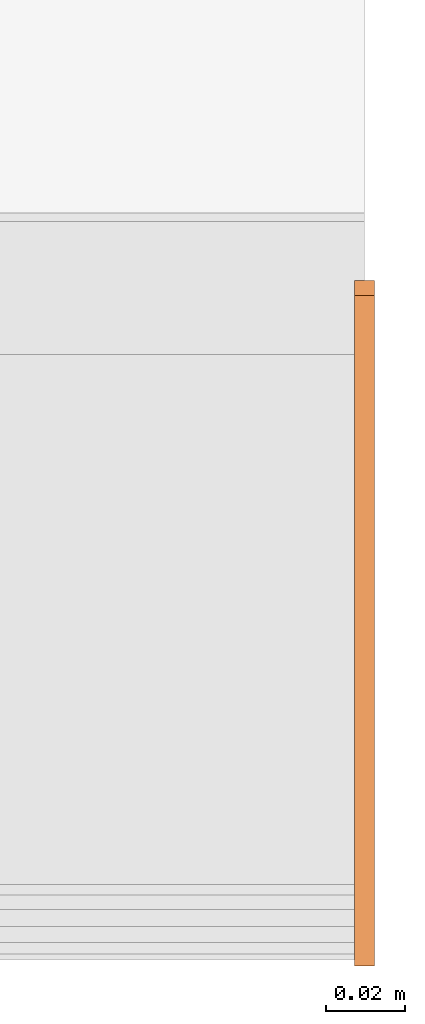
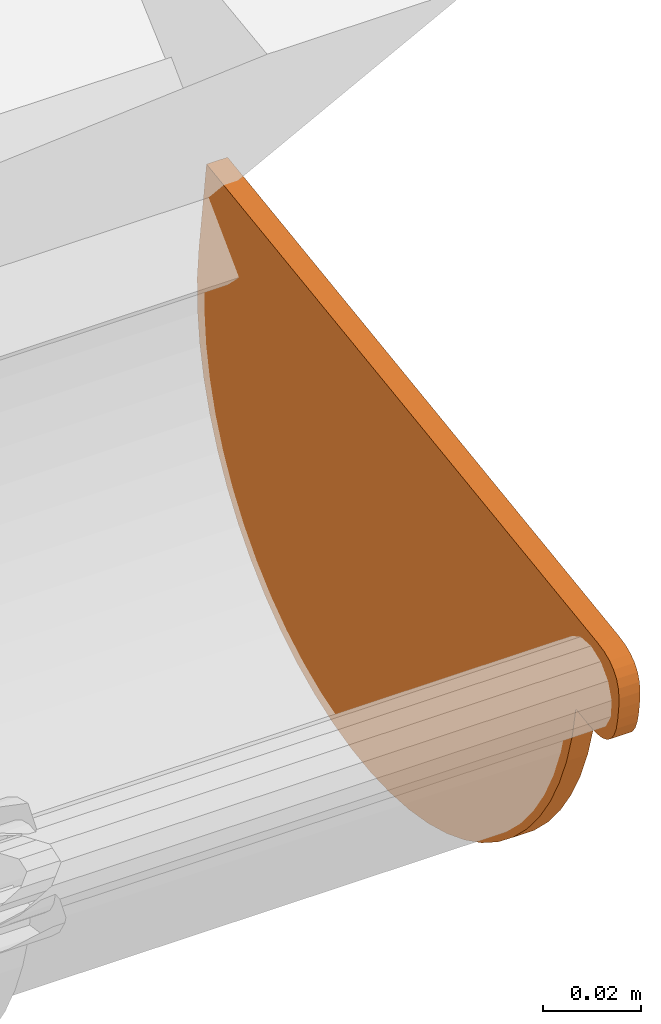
# One storey, part 40 of 43: 1 proxy.
"""IFC2X3 building model written with IfcOpenShell, lengths in millimetres."""

from ifc_helpers import new_model, si_unit, frame, origin_with_axes, place, context, project, spatial, faceted_brep, element, save


model = new_model("IFC2X3")

# Units and contexts
model_context = context("Model", 3, world=origin_with_axes())
ifc_project = project(units=[si_unit("LENGTHUNIT", "METRE", prefix="MILLI")], contexts=[model_context])

# Site, building, storey
site_placement = place(None, origin_with_axes())
site = spatial("IfcSite", under=ifc_project, at=site_placement, Name="Site", CompositionType="ELEMENT")
building_placement = place(site_placement, origin_with_axes())
building = spatial("IfcBuilding", under=site, at=building_placement, Name="?", CompositionType="ELEMENT")
storey_placement = place(building_placement, frame((0.0, 0.0, 5938.0), z_axis=(0.0, 0.0, 1.0), x_axis=(1.0, 0.0, 0.0)))
storey = spatial("IfcBuildingStorey", under=building, at=storey_placement, Name="Dachgeschoß", CompositionType="ELEMENT", Elevation=5938.0)

# Proxy
proxy_placement = place(None, origin_with_axes())
element("IfcBuildingElementProxy", 1, at=proxy_placement, inside=storey, Name="Dach01_RoofGutter#013", ObjectType="gutter", CompositionType="ELEMENT", context=model_context, shape_type="Brep", body=[
    faceted_brep([(18602.5, -8096.2509765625, 6644.93896484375), (18597.5, -8096.2509765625, 6644.93896484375), (18597.5, -8094.75647654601, 6637.18036494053), (18602.5, -8094.75647654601, 6637.18036494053), (18602.5, -8094.75634765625, 6637.18017578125), (18597.5, -8094.75634765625, 6637.18017578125), (18597.5, -8092.48454766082, 6629.61247599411), (18602.5, -8092.48454766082, 6629.61247599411), (18602.5, -8092.484375, 6629.61279296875), (18597.5, -8092.484375, 6629.61279296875), (18597.5, -8089.45867502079, 6622.31389280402), (18602.5, -8089.45867502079, 6622.31389280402), (18602.5, -8089.458984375, 6622.31396484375), (18597.5, -8089.458984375, 6622.31396484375), (18597.5, -8085.71028437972, 6615.35856489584), (18602.5, -8085.71028437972, 6615.35856489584), (18602.5, -8085.7099609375, 6615.3583984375), (18597.5, -8085.7099609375, 6615.3583984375), (18597.5, -8081.27686074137, 6608.81789834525), (18602.5, -8081.27686074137, 6608.81789834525), (18602.5, -8081.27734375, 6608.81787109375), (18597.5, -8081.27734375, 6608.81787109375), (18597.5, -8076.20534357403, 6602.75937116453), (18602.5, -8076.20534357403, 6602.75937116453), (18602.5, -8076.205078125, 6602.75927734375), (18597.5, -8076.205078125, 6602.75927734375), (18597.5, -8070.54617810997, 6597.24507732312), (18602.5, -8070.54617810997, 6597.24507732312), (18602.5, -8070.54638671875, 6597.2451171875), (18597.5, -8070.54638671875, 6597.2451171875), (18597.5, -8064.35858673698, 6592.33171697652), (18602.5, -8064.35858673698, 6592.33171697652), (18602.5, -8064.3583984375, 6592.33203125), (18597.5, -8064.3583984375, 6592.33203125), (18597.5, -8057.70539846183, 6588.06973133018), (18602.5, -8057.70539846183, 6588.06973133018), (18602.5, -8057.70556640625, 6588.0693359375), (18597.5, -8057.70556640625, 6588.0693359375), (18597.5, -8050.65536663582, 6584.50213591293), (18602.5, -8050.65536663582, 6584.50213591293), (18602.5, -8050.6552734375, 6584.50244140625), (18597.5, -8050.6552734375, 6584.50244140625), (18597.5, -8043.28037339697, 6581.66674152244), (18602.5, -8043.28037339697, 6581.66674152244), (18602.5, -8043.2802734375, 6581.66650390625), (18597.5, -8043.2802734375, 6581.66650390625), (18597.5, -8035.65637361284, 6579.59140394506), (18602.5, -8035.65637361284, 6579.59140394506), (18602.5, -8035.65625, 6579.59130859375), (18597.5, -8035.65625, 6579.59130859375), (18597.5, -8027.86154998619, 6578.29820858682), (18602.5, -8027.86154998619, 6578.29820858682), (18602.5, -8027.86181640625, 6578.29833984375), (18597.5, -8027.86181640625, 6578.29833984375), (18597.5, -8019.97621626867, 6577.80043982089), (18602.5, -8019.97621626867, 6577.80043982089), (18602.5, -8019.97607421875, 6577.80029296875), (18597.5, -8019.97607421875, 6577.80029296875), (18597.5, -8012.08057429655, 6578.10269295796), (18602.5, -8012.08057429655, 6578.10269295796), (18602.5, -8012.08056640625, 6578.10302734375), (18597.5, -8012.08056640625, 6578.10302734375), (18597.5, -8004.2561663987, 6579.20272731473), (18602.5, -8004.2561663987, 6579.20272731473), (18602.5, -8004.25634765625, 6579.20263671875), (18597.5, -8004.25634765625, 6579.20263671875), (18597.5, -7996.58334766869, 6581.08813669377), (18602.5, -7996.58334766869, 6581.08813669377), (18602.5, -7996.5830078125, 6581.087890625), (18597.5, -7996.5830078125, 6581.087890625), (18597.5, -7989.14020801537, 6583.74009059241), (18602.5, -7989.14020801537, 6583.74009059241), (18602.5, -7989.140625, 6583.740234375), (18597.5, -7989.140625, 6583.740234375), (18597.5, -7982.00422499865, 6587.13183440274), (18602.5, -7982.00422499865, 6587.13183440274), (18602.5, -7982.00390625, 6587.1318359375), (18597.5, -7982.00390625, 6587.1318359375), (18597.5, -7975.24730613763, 6591.22793584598), (18602.5, -7975.24730613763, 6591.22793584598), (18602.5, -7975.24755859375, 6591.22802734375), (18597.5, -7975.24755859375, 6591.22802734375), (18597.5, -7968.94005870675, 6595.98662726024), (18602.5, -7968.94005870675, 6595.98662726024), (18602.5, -7968.93994140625, 6595.98681640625), (18597.5, -7968.93994140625, 6595.98681640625), (18597.5, -7963.14614135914, 6601.3592166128), (18602.5, -7963.14614135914, 6601.3592166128), (18602.5, -7963.14599609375, 6601.35888671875), (18597.5, -7963.14599609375, 6601.35888671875), (18597.5, -7957.92549597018, 6607.28988671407), (18602.5, -7957.92549597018, 6607.28988671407), (18602.5, -7957.92578125, 6607.2900390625), (18597.5, -7957.92578125, 6607.2900390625), (18597.5, -7953.33198134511, 6613.71863918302), (18602.5, -7953.33198134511, 6613.71863918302), (18602.5, -7953.33203125, 6613.71875), (18597.5, -7953.33203125, 6613.71875), (18597.5, -7949.41233128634, 6620.5792497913), (18602.5, -7949.41233128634, 6620.5792497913), (18602.5, -7949.412109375, 6620.5791015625), (18597.5, -7949.412109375, 6620.5791015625), (18597.5, -7946.20650946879, 6627.8008014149), (18602.5, -7946.20650946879, 6627.8008014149), (18602.5, -7946.20654296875, 6627.80078125), (18597.5, -7946.20654296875, 6627.80078125), (18597.5, -7943.74794288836, 6635.30988116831), (18602.5, -7943.74794288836, 6635.30988116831), (18602.5, -7943.748046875, 6635.31005859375), (18597.5, -7943.748046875, 6635.31005859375), (18597.5, -7942.06184691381, 6643.02925874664), (18602.5, -7942.06184691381, 6643.02925874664), (18602.5, -7942.0615234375, 6643.029296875), (18597.5, -7942.0615234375, 6643.029296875), (18597.5, -7941.16482343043, 6650.87959710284), (18602.5, -7941.16482343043, 6650.87959710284), (18602.5, -7941.1650390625, 6650.87939453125), (18597.5, -7941.1650390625, 6650.87939453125), (18597.5, -7941.06723906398, 6658.77999466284), (18602.5, -7941.06723906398, 6658.77999466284), (18602.5, -7941.0673828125, 6658.77978515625), (18597.5, -7941.0673828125, 6658.77978515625), (18597.5, -7941.76928279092, 6666.64988526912), (18602.5, -7941.76928279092, 6666.64988526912), (18602.5, -7941.76904296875, 6666.64990234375), (18597.5, -7941.76904296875, 6666.64990234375), (18597.5, -8019.00994139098, 6655.79430188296), (18602.5, -8019.00994139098, 6655.79430188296), (18602.5, -8019.009765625, 6655.79443359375), (18597.5, -8019.009765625, 6655.79443359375), (18597.5, -8096.25066421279, 6644.93893386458), (18602.5, -8096.25066421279, 6644.93893386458), (18597.5, -7942.0615234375, 6643.029296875), (18597.5, -8019.0098234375, 6655.794696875), (18597.5, -7941.7689234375, 6666.650296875), (18597.5, -7941.0670234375, 6658.780196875), (18597.5, -7942.0615234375, 6643.029296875), (18597.5, -7941.0670234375, 6658.780196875), (18597.5, -7941.1648234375, 6650.879596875), (18597.5, -7953.33203125, 6613.71875), (18597.5, -7942.06193125, 6643.02925), (18597.5, -7943.74813125, 6635.31005), (18597.5, -7946.20673125, 6627.80095), (18597.5, -7953.33203125, 6613.71875), (18597.5, -7946.20673125, 6627.80095), (18597.5, -7949.41233125, 6620.57925), (18597.5, -8004.25634765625, 6579.20263671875), (18597.5, -8019.01014765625, 6655.79453671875), (18597.5, -7942.06184765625, 6643.02913671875), (18597.5, -7953.33194765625, 6613.71863671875), (18597.5, -7975.24755859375, 6591.22802734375), (18597.5, -7953.33195859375, 6613.71862734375), (18597.5, -7957.92575859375, 6607.29002734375), (18597.5, -7963.14625859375, 6601.35902734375), (18597.5, -7975.24755859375, 6591.22802734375), (18597.5, -7963.14625859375, 6601.35902734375), (18597.5, -7968.94005859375, 6595.98662734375), (18597.5, -8004.25634765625, 6579.20263671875), (18597.5, -7975.24754765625, 6591.22803671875), (18597.5, -7982.00414765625, 6587.13193671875), (18597.5, -7989.14054765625, 6583.74033671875), (18597.5, -8004.25634765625, 6579.20263671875), (18597.5, -7989.14054765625, 6583.74033671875), (18597.5, -7996.58334765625, 6581.08813671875), (18597.5, -8004.25634765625, 6579.20263671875), (18597.5, -7953.33194765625, 6613.71863671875), (18597.5, -7975.24754765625, 6591.22803671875), (18597.5, -8035.65625, 6579.59130859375), (18597.5, -8004.25605, 6579.20240859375), (18597.5, -8012.08045, 6578.10270859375), (18597.5, -8019.97595, 6577.80030859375), (18597.5, -8035.65625, 6579.59130859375), (18597.5, -8019.97595, 6577.80030859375), (18597.5, -8027.86155, 6578.29820859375), (18597.5, -8064.3583984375, 6592.33203125), (18597.5, -8035.6563984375, 6579.59173125), (18597.5, -8043.2802984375, 6581.66683125), (18597.5, -8050.6551984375, 6584.50253125), (18597.5, -8064.3583984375, 6592.33203125), (18597.5, -8050.6551984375, 6584.50253125), (18597.5, -8057.7053984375, 6588.06973125), (18597.5, -8019.009765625, 6655.79443359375), (18597.5, -8004.255965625, 6579.20253359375), (18597.5, -8035.656165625, 6579.59143359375), (18597.5, -8064.358165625, 6592.33173359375), (18597.5, -8085.7099609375, 6615.3583984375), (18597.5, -8064.3581609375, 6592.3317984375), (18597.5, -8070.5459609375, 6597.2451984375), (18597.5, -8076.2048609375, 6602.7593984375), (18597.5, -8085.7099609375, 6615.3583984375), (18597.5, -8076.2048609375, 6602.7593984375), (18597.5, -8081.2768609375, 6608.8178984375), (18597.5, -8092.484375, 6629.61279296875), (18597.5, -8019.009775, 6655.79459296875), (18597.5, -8064.358175, 6592.33189296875), (18597.5, -8085.709975, 6615.35849296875), (18597.5, -8092.484375, 6629.61279296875), (18597.5, -8085.709975, 6615.35849296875), (18597.5, -8089.458675, 6622.31389296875), (18597.5, -8096.2509765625, 6644.93896484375), (18597.5, -8019.0100765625, 6655.79446484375), (18597.5, -8092.4846765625, 6629.61266484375), (18597.5, -8094.7564765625, 6637.18036484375), (18602.5, -8081.27734375, 6608.81787109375), (18602.5, -8094.75664375, 6637.18037109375), (18602.5, -8092.48484375, 6629.61267109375), (18602.5, -8089.45914375, 6622.31377109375), (18602.5, -8081.27734375, 6608.81787109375), (18602.5, -8089.45914375, 6622.31377109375), (18602.5, -8085.71044375, 6615.35837109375), (18602.5, -8057.70556640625, 6588.0693359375), (18602.5, -8081.27726640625, 6608.8177359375), (18602.5, -8076.20526640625, 6602.7592359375), (18602.5, -8070.54636640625, 6597.2450359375), (18602.5, -8057.70556640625, 6588.0693359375), (18602.5, -8070.54636640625, 6597.2450359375), (18602.5, -8064.35856640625, 6592.3316359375), (18602.5, -7996.5830078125, 6581.087890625), (18602.5, -8094.7562078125, 6637.180190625), (18602.5, -8081.2769078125, 6608.817690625), (18602.5, -8057.7052078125, 6588.069290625), (18602.5, -8027.86181640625, 6578.29833984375), (18602.5, -8057.70551640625, 6588.06943984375), (18602.5, -8050.65531640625, 6584.50223984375), (18602.5, -8043.28041640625, 6581.66653984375), (18602.5, -8027.86181640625, 6578.29833984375), (18602.5, -8043.28041640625, 6581.66653984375), (18602.5, -8035.65651640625, 6579.59143984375), (18602.5, -7996.5830078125, 6581.087890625), (18602.5, -8027.8615078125, 6578.298190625), (18602.5, -8019.9759078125, 6577.800290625), (18602.5, -8012.0804078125, 6578.102690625), (18602.5, -7996.5830078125, 6581.087890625), (18602.5, -8012.0804078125, 6578.102690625), (18602.5, -8004.2560078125, 6579.202390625), (18602.5, -7996.5830078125, 6581.087890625), (18602.5, -8057.7052078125, 6588.069290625), (18602.5, -8027.8615078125, 6578.298190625), (18602.5, -7968.93994140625, 6595.98681640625), (18602.5, -7996.58324140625, 6581.08831640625), (18602.5, -7989.14044140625, 6583.74051640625), (18602.5, -7982.00404140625, 6587.13211640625), (18602.5, -7968.93994140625, 6595.98681640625), (18602.5, -7982.00404140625, 6587.13211640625), (18602.5, -7975.24744140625, 6591.22821640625), (18602.5, -7949.412109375, 6620.5791015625), (18602.5, -7968.939909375, 6595.9866015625), (18602.5, -7963.146109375, 6601.3590015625), (18602.5, -7957.925609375, 6607.2900015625), (18602.5, -7949.412109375, 6620.5791015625), (18602.5, -7957.925609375, 6607.2900015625), (18602.5, -7953.331809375, 6613.7186015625), (18602.5, -8094.75634765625, 6637.18017578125), (18602.5, -7996.58314765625, 6581.08787578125), (18602.5, -7968.93984765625, 6595.98637578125), (18602.5, -7949.41204765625, 6620.57887578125), (18602.5, -7941.1650390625, 6650.87939453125), (18602.5, -7949.4121390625, 6620.57909453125), (18602.5, -7946.2065390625, 6627.80079453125), (18602.5, -7943.7479390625, 6635.30989453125), (18602.5, -7941.1650390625, 6650.87939453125), (18602.5, -7943.7479390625, 6635.30989453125), (18602.5, -7942.0617390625, 6643.02909453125), (18602.5, -7941.76904296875, 6666.64990234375), (18602.5, -8094.75634296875, 6637.18020234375), (18602.5, -7949.41204296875, 6620.57890234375), (18602.5, -7941.16494296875, 6650.87920234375), (18602.5, -7941.76904296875, 6666.64990234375), (18602.5, -7941.16494296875, 6650.87920234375), (18602.5, -7941.06714296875, 6658.77980234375), (18602.5, -8096.2509765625, 6644.93896484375), (18602.5, -8094.7564765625, 6637.18036484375), (18602.5, -7941.7691765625, 6666.65006484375), (18602.5, -8019.0100765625, 6655.79446484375), (18597.5, -7941.76904296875, 6666.64990234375), (18602.5, -7941.76904296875, 6666.64990234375), (18602.5, -8102.09054740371, 6644.10700284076), (18597.5, -8102.09054740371, 6644.10700284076), (18602.5, -8105.29150390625, 6666.88330078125), (18602.5, -7944.86710379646, 6689.4295002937), (18597.5, -7944.86710379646, 6689.4295002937), (18597.5, -8105.29150390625, 6666.88330078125), (18602.5, -7944.8671875, 6689.4296875), (18602.5, -7941.76908754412, 6666.650188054), (18597.5, -7941.76908754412, 6666.650188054), (18597.5, -7944.8671875, 6689.4296875), (18597.5, -8107.05419921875, 6644.23388671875), (18597.5, -7941.76929921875, 6666.65008671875), (18597.5, -8102.09079921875, 6644.10718671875), (18597.5, -8104.74619921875, 6643.94008671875), (18597.5, -8110.6279296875, 6646.20458984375), (18597.5, -7941.7690296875, 6666.65028984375), (18597.5, -8107.0539296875, 6644.23408984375), (18597.5, -8109.0146296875, 6644.98888984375), (18597.5, -8112.8125, 6650.0185546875), (18597.5, -7941.769, 6666.6499546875), (18597.5, -8110.6279, 6646.2042546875), (18597.5, -8111.8939, 6647.8809546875), (18597.5, -8105.29150390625, 6666.88330078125), (18597.5, -7941.76900390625, 6666.65000078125), (18597.5, -8112.81250390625, 6650.01860078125), (18597.5, -8113.38380390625, 6652.61720078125), (18597.5, -8113.6748046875, 6660.5537109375), (18597.5, -8113.3837046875, 6652.6175109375), (18597.5, -8113.8015046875, 6655.5903109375), (18597.5, -8113.9686046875, 6658.2457109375), (18597.5, -8111.70458984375, 6664.12744140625), (18597.5, -8113.38398984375, 6652.61724140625), (18597.5, -8113.67508984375, 6660.55344140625), (18597.5, -8112.92028984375, 6662.51414140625), (18597.5, -8107.89013671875, 6666.31201171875), (18597.5, -8113.38383671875, 6652.61721171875), (18597.5, -8111.70443671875, 6664.12741171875), (18597.5, -8110.02773671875, 6665.39341171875), (18597.5, -8105.29150390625, 6666.88330078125), (18597.5, -8113.38380390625, 6652.61720078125), (18597.5, -8107.89010390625, 6666.31200078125), (18597.5, -7944.8671875, 6689.4296875), (18597.5, -7941.7690875, 6666.6501875), (18597.5, -8105.2915875, 6666.8834875), (18597.5, -8113.8017578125, 6655.59033203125), (18597.5, -8113.38395782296, 6652.61753205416), (18602.5, -8113.38395782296, 6652.61753205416), (18602.5, -8113.8017578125, 6655.59033203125), (18602.5, -8113.8017578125, 6655.59033203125), (18602.5, -8102.0906578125, 6644.10743203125), (18602.5, -7941.7691578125, 6666.65033203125), (18602.5, -7944.8672578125, 6689.42983203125), (18602.5, -8110.02783203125, 6665.3935546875), (18602.5, -7944.86723203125, 6689.4296546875), (18602.5, -8105.29163203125, 6666.8834546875), (18602.5, -8107.89023203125, 6666.3121546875), (18602.5, -8112.92041015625, 6662.51416015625), (18602.5, -7944.86741015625, 6689.42956015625), (18602.5, -8110.02801015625, 6665.39346015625), (18602.5, -8111.70471015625, 6664.12746015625), (18602.5, -8113.96875, 6658.24560546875), (18602.5, -7944.86715, 6689.42970546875), (18602.5, -8112.92015, 6662.51430546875), (18602.5, -8113.67495, 6660.55360546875), (18602.5, -8113.8017578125, 6655.59033203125), (18602.5, -7944.8672578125, 6689.42983203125), (18602.5, -8113.9688578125, 6658.24573203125), (18602.5, -8107.05419921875, 6644.23388671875), (18602.5, -8104.74619921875, 6643.94008671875), (18602.5, -8102.09079921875, 6644.10718671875), (18602.5, -8113.80189921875, 6655.59008671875), (18602.5, -8110.6279296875, 6646.20458984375), (18602.5, -8109.0146296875, 6644.98888984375), (18602.5, -8107.0539296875, 6644.23408984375), (18602.5, -8113.8016296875, 6655.59028984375), (18602.5, -8112.8125, 6650.0185546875), (18602.5, -8111.8939, 6647.8809546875), (18602.5, -8110.6279, 6646.2042546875), (18602.5, -8113.8016, 6655.5899546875), (18602.5, -8113.8017578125, 6655.59033203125), (18602.5, -8113.3839578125, 6652.61753203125), (18602.5, -8112.8126578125, 6650.01893203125), (18602.5, -8104.74609375, 6643.93994140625), (18597.5, -8104.74609375, 6643.93994140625), (18597.5, -8102.09069368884, 6644.10704139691), (18602.5, -8102.09069368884, 6644.10704139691), (18597.5, -8107.89013671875, 6666.31201171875), (18602.5, -8107.89013671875, 6666.31201171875), (18602.5, -8105.29153667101, 6666.88331171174), (18597.5, -8105.29153667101, 6666.88331171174), (18602.5, -8107.05419921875, 6644.23388671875), (18597.5, -8107.05419921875, 6644.23388671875), (18597.5, -8104.74619921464, 6643.9400867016), (18602.5, -8104.74619921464, 6643.9400867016), (18602.5, -8109.0146484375, 6644.98876953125), (18597.5, -8109.0146484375, 6644.98876953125), (18597.5, -8107.05394848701, 6644.23396956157), (18602.5, -8107.05394848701, 6644.23396956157), (18602.5, -8110.6279296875, 6646.20458984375), (18597.5, -8110.6279296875, 6646.20458984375), (18597.5, -8109.01462973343, 6644.9888898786), (18602.5, -8109.01462973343, 6644.9888898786), (18602.5, -8111.89404296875, 6647.88134765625), (18597.5, -8111.89404296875, 6647.88134765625), (18597.5, -8110.62804300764, 6646.20464766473), (18602.5, -8110.62804300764, 6646.20464766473), (18602.5, -8112.8125, 6650.0185546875), (18597.5, -8112.8125, 6650.0185546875), (18597.5, -8111.89390000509, 6647.88095474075), (18602.5, -8111.89390000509, 6647.88095474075), (18602.5, -8113.3837890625, 6652.6171875), (18597.5, -8113.3837890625, 6652.6171875), (18597.5, -8112.81248906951, 6650.01858745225), (18602.5, -8112.81248906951, 6650.01858745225), (18597.5, -8110.02783203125, 6665.3935546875), (18602.5, -8110.02783203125, 6665.3935546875), (18602.5, -8107.8902320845, 6666.31215468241), (18597.5, -8107.8902320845, 6666.31215468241), (18597.5, -8111.70458984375, 6664.12744140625), (18602.5, -8111.70458984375, 6664.12744140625), (18602.5, -8110.02788985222, 6665.39344136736), (18597.5, -8110.02788985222, 6665.39344136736), (18597.5, -8112.92041015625, 6662.51416015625), (18602.5, -8112.92041015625, 6662.51416015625), (18602.5, -8111.7047101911, 6664.12746011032), (18597.5, -8111.7047101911, 6664.12746011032), (18597.5, -8113.6748046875, 6660.5537109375), (18602.5, -8113.6748046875, 6660.5537109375), (18602.5, -8112.92000471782, 6662.51441088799), (18597.5, -8112.92000471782, 6662.51441088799), (18597.5, -8113.96875, 6658.24560546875), (18602.5, -8113.96875, 6658.24560546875), (18602.5, -8113.67494998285, 6660.55360547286), (18597.5, -8113.67494998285, 6660.55360547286), (18597.5, -8113.8017578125, 6655.59033203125), (18602.5, -8113.8017578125, 6655.59033203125), (18602.5, -8113.96885780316, 6658.24573209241), (18597.5, -8113.96885780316, 6658.24573209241)], [[[0, 1, 2, 3]], [[4, 5, 6, 7]], [[8, 9, 10, 11]], [[12, 13, 14, 15]], [[16, 17, 18, 19]], [[20, 21, 22, 23]], [[24, 25, 26, 27]], [[28, 29, 30, 31]], [[32, 33, 34, 35]], [[36, 37, 38, 39]], [[40, 41, 42, 43]], [[44, 45, 46, 47]], [[48, 49, 50, 51]], [[52, 53, 54, 55]], [[56, 57, 58, 59]], [[60, 61, 62, 63]], [[64, 65, 66, 67]], [[68, 69, 70, 71]], [[72, 73, 74, 75]], [[76, 77, 78, 79]], [[80, 81, 82, 83]], [[84, 85, 86, 87]], [[88, 89, 90, 91]], [[92, 93, 94, 95]], [[96, 97, 98, 99]], [[100, 101, 102, 103]], [[104, 105, 106, 107]], [[108, 109, 110, 111]], [[112, 113, 114, 115]], [[116, 117, 118, 119]], [[120, 121, 122, 123]], [[124, 125, 126, 127]], [[128, 129, 130, 131]], [[132, 133, 134, 135]], [[136, 137, 138]], [[139, 140, 141, 142]], [[143, 144, 145]], [[146, 147, 148, 149]], [[150, 151, 152, 153]], [[154, 155, 156]], [[157, 158, 159, 160]], [[161, 162, 163]], [[164, 165, 166]], [[167, 168, 169, 170]], [[171, 172, 173]], [[174, 175, 176, 177]], [[178, 179, 180]], [[181, 182, 183, 184]], [[185, 186, 187, 188]], [[189, 190, 191]], [[192, 193, 194, 195]], [[196, 197, 198]], [[199, 200, 201, 202]], [[203, 204, 205, 206]], [[207, 208, 209]], [[210, 211, 212, 213]], [[214, 215, 216]], [[217, 218, 219, 220]], [[221, 222, 223, 224]], [[225, 226, 227]], [[228, 229, 230, 231]], [[232, 233, 234]], [[235, 236, 237]], [[238, 239, 240, 241]], [[242, 243, 244]], [[245, 246, 247, 248]], [[249, 250, 251]], [[252, 253, 254, 255]], [[256, 257, 258, 259]], [[260, 261, 262]], [[263, 264, 265, 266]], [[267, 268, 269]], [[270, 271, 272, 273]], [[274, 275, 276, 277]], [[278, 279, 280, 281]], [[282, 283, 284, 285]], [[286, 287, 288, 289]], [[290, 291, 292, 293]], [[294, 295, 296, 297]], [[298, 299, 300, 301]], [[302, 303, 304, 305]], [[306, 307, 308, 309]], [[310, 311, 312, 313]], [[314, 315, 316]], [[317, 318, 319]], [[320, 321, 322, 323]], [[324, 325, 326, 327]], [[328, 329, 330, 331]], [[332, 333, 334, 335]], [[336, 337, 338, 339]], [[340, 341, 342]], [[343, 344, 345, 346]], [[347, 348, 349, 350]], [[351, 352, 353, 354]], [[355, 356, 357]], [[358, 359, 360, 361]], [[362, 363, 364, 365]], [[366, 367, 368, 369]], [[370, 371, 372, 373]], [[374, 375, 376, 377]], [[378, 379, 380, 381]], [[382, 383, 384, 385]], [[386, 387, 388, 389]], [[390, 391, 392, 393]], [[394, 395, 396, 397]], [[398, 399, 400, 401]], [[402, 403, 404, 405]], [[406, 407, 408, 409]], [[410, 411, 412, 413]]]),
])

save(model, "model.ifc")
